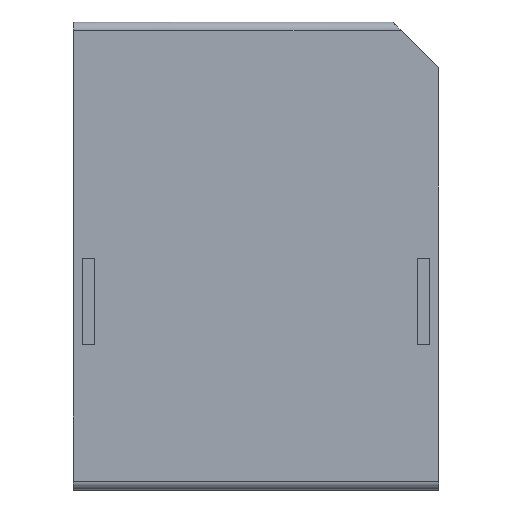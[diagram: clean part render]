
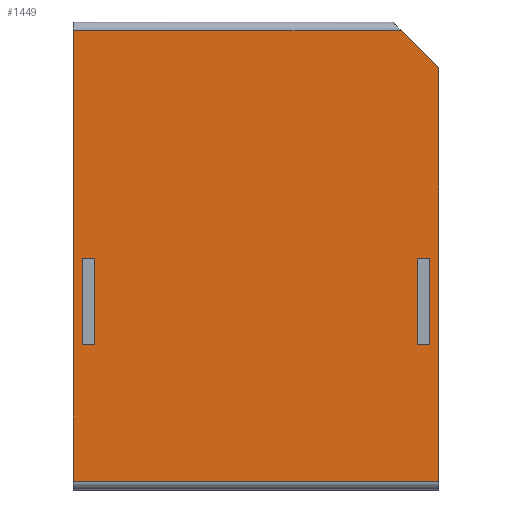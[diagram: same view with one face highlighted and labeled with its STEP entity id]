
A CAD part, top view. The second image highlights one B-rep face of the part: STEP entity #1449.
In plain terms, the highlighted planar face has unit normal (0, 0, 1).
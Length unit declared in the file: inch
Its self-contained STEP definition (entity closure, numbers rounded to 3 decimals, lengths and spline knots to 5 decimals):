
#104=DIRECTION('',(0.,-1.,0.));
#105=VECTOR('',#104,2.03937);
#106=CARTESIAN_POINT('',(0.,-0.03937,0.34646));
#107=LINE('',#106,#105);
#204=DIRECTION('',(0.,-1.,0.));
#205=VECTOR('',#204,1.87047);
#206=CARTESIAN_POINT('',(1.65354,-0.20827,
0.34646));
#207=LINE('',#206,#205);
#208=DIRECTION('',(1.,0.,0.));
#209=VECTOR('',#208,1.65354);
#210=CARTESIAN_POINT('',(0.,-2.07874,0.34646));
#211=LINE('',#210,#209);
#392=CARTESIAN_POINT('',(1.48465,-0.03937,
0.34646));
#398=DIRECTION('',(0.707,-0.707,0.));
#399=VECTOR('',#398,0.23886);
#400=CARTESIAN_POINT('',(1.48465,-0.03937,
0.34646));
#401=LINE('',#400,#399);
#402=DIRECTION('',(1.,0.,0.));
#403=VECTOR('',#402,1.48465);
#404=CARTESIAN_POINT('',(0.,-0.03937,0.34646));
#405=LINE('',#404,#403);
#406=DIRECTION('',(1.,0.,0.));
#407=VECTOR('',#406,0.05512);
#408=CARTESIAN_POINT('',(0.03937,-1.4626,
0.34646));
#409=LINE('',#408,#407);
#410=DIRECTION('',(0.,1.,0.));
#411=VECTOR('',#410,0.3937);
#412=CARTESIAN_POINT('',(0.09449,-1.4626,
0.34646));
#413=LINE('',#412,#411);
#414=DIRECTION('',(-1.,0.,0.));
#415=VECTOR('',#414,0.05512);
#416=CARTESIAN_POINT('',(0.09449,-1.0689,
0.34646));
#417=LINE('',#416,#415);
#418=DIRECTION('',(0.,-1.,0.));
#419=VECTOR('',#418,0.3937);
#420=CARTESIAN_POINT('',(0.03937,-1.0689,
0.34646));
#421=LINE('',#420,#419);
#422=DIRECTION('',(1.,0.,0.));
#423=VECTOR('',#422,0.05512);
#424=CARTESIAN_POINT('',(1.55906,-1.4626,0.34646));
#425=LINE('',#424,#423);
#426=DIRECTION('',(0.,1.,0.));
#427=VECTOR('',#426,0.3937);
#428=CARTESIAN_POINT('',(1.61417,-1.4626,0.34646));
#429=LINE('',#428,#427);
#430=DIRECTION('',(-1.,0.,0.));
#431=VECTOR('',#430,0.05512);
#432=CARTESIAN_POINT('',(1.61417,-1.0689,0.34646));
#433=LINE('',#432,#431);
#434=DIRECTION('',(0.,-1.,0.));
#435=VECTOR('',#434,0.3937);
#436=CARTESIAN_POINT('',(1.55906,-1.0689,0.34646));
#437=LINE('',#436,#435);
#756=CARTESIAN_POINT('',(0.,-2.07874,0.34646));
#758=VERTEX_POINT('',#756);
#804=CARTESIAN_POINT('',(0.,-0.03937,0.34646));
#805=VERTEX_POINT('',#804);
#806=CARTESIAN_POINT('',(1.65354,-2.07874,0.34646));
#808=VERTEX_POINT('',#806);
#842=CARTESIAN_POINT('',(1.65354,-0.20827,
0.34646));
#844=VERTEX_POINT('',#842);
#854=VERTEX_POINT('',#392);
#995=CARTESIAN_POINT('',(0.03937,-1.4626,
0.34646));
#996=CARTESIAN_POINT('',(0.09449,-1.4626,
0.34646));
#997=VERTEX_POINT('',#995);
#998=VERTEX_POINT('',#996);
#999=CARTESIAN_POINT('',(0.09449,-1.0689,
0.34646));
#1000=VERTEX_POINT('',#999);
#1001=CARTESIAN_POINT('',(0.03937,-1.0689,
0.34646));
#1002=VERTEX_POINT('',#1001);
#1011=CARTESIAN_POINT('',(1.55906,-1.4626,
0.34646));
#1012=CARTESIAN_POINT('',(1.61417,-1.4626,
0.34646));
#1013=VERTEX_POINT('',#1011);
#1014=VERTEX_POINT('',#1012);
#1015=CARTESIAN_POINT('',(1.61417,-1.0689,
0.34646));
#1016=VERTEX_POINT('',#1015);
#1017=CARTESIAN_POINT('',(1.55906,-1.0689,
0.34646));
#1018=VERTEX_POINT('',#1017);
#1416=CARTESIAN_POINT('',(0.,-0.03937,0.34646));
#1417=DIRECTION('',(0.,0.,1.));
#1418=DIRECTION('',(0.,-1.,0.));
#1419=AXIS2_PLACEMENT_3D('',#1416,#1417,#1418);
#1420=PLANE('',#1419);
#1422=ORIENTED_EDGE('',*,*,#1421,.T.);
#1423=ORIENTED_EDGE('',*,*,#1138,.T.);
#1424=ORIENTED_EDGE('',*,*,#1149,.F.);
#1425=ORIENTED_EDGE('',*,*,#1080,.F.);
#1426=ORIENTED_EDGE('',*,*,#1409,.T.);
#1427=EDGE_LOOP('',(#1422,#1423,#1424,#1425,#1426));
#1428=FACE_OUTER_BOUND('',#1427,.F.);
#1430=ORIENTED_EDGE('',*,*,#1429,.T.);
#1432=ORIENTED_EDGE('',*,*,#1431,.T.);
#1434=ORIENTED_EDGE('',*,*,#1433,.T.);
#1436=ORIENTED_EDGE('',*,*,#1435,.T.);
#1437=EDGE_LOOP('',(#1430,#1432,#1434,#1436));
#1438=FACE_BOUND('',#1437,.F.);
#1440=ORIENTED_EDGE('',*,*,#1439,.T.);
#1442=ORIENTED_EDGE('',*,*,#1441,.T.);
#1444=ORIENTED_EDGE('',*,*,#1443,.T.);
#1446=ORIENTED_EDGE('',*,*,#1445,.T.);
#1447=EDGE_LOOP('',(#1440,#1442,#1444,#1446));
#1448=FACE_BOUND('',#1447,.F.);
#1449=ADVANCED_FACE('',(#1428,#1438,#1448),#1420,.T.);
#1080=EDGE_CURVE('',#805,#758,#107,.T.);
#1138=EDGE_CURVE('',#844,#808,#207,.T.);
#1149=EDGE_CURVE('',#758,#808,#211,.T.);
#1409=EDGE_CURVE('',#805,#854,#405,.T.);
#1421=EDGE_CURVE('',#854,#844,#401,.T.);
#1429=EDGE_CURVE('',#997,#998,#409,.T.);
#1431=EDGE_CURVE('',#998,#1000,#413,.T.);
#1433=EDGE_CURVE('',#1000,#1002,#417,.T.);
#1435=EDGE_CURVE('',#1002,#997,#421,.T.);
#1439=EDGE_CURVE('',#1013,#1014,#425,.T.);
#1441=EDGE_CURVE('',#1014,#1016,#429,.T.);
#1443=EDGE_CURVE('',#1016,#1018,#433,.T.);
#1445=EDGE_CURVE('',#1018,#1013,#437,.T.);
